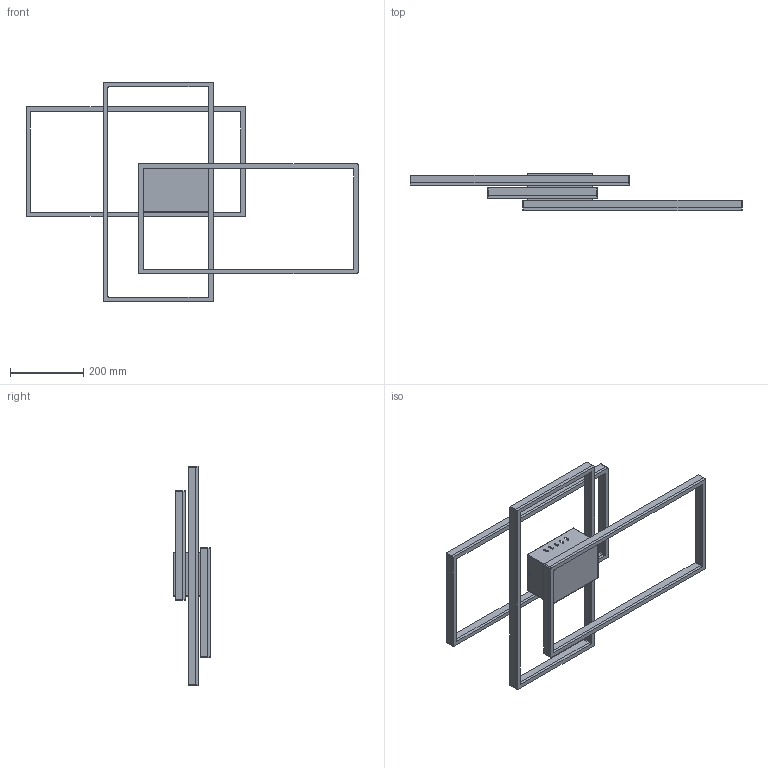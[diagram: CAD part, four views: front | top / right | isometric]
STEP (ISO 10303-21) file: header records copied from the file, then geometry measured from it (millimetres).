
FILE_DESCRIPTION(/* description */ (''),/* implementation_level */ '2;1');
FILE_NAME(/* name */ 'VT-7926.stp',/* time_stamp */ '2026-06-23T20:15:12+08:00',/* author */ (''),/* organization */ (''),/* preprocessor_version */ 'ST-DEVELOPER v16',/* originating_system */ 'SIEMENS PLM Software NX 10.0',/* authorisation */ '');
FILE_SCHEMA (('AP203_CONFIGURATION_CONTROLLED_3D_DESIGN_OF_MECHANICAL_PARTS_AND_ASSEMBLIES_MIM_LF { 1 0 10303 403 2 1 2}'));
Length unit declared in the file: millimetre
Products named in the file (1): 14B044C7C32hq
Bounding box: 908 x 103 x 600 mm (x, y, z)
Volume: 1831320 mm3; surface area: 708908.8 mm2
Topology: 10 solids, 10 shells, 251 faces, 664 edges, 434 vertices
Faces by surface type: plane 131, cylinder 100, bspline 8, cone 8, sphere 4
Full cylindrical faces by diameter (mm): 7 x2, 9.6 x2
Entity records: 15802 total; most frequent: CARTESIAN_POINT 9408, ORIENTED_EDGE 1308, DIRECTION 1294, EDGE_CURVE 654, AXIS2_PLACEMENT_3D 450, VERTEX_POINT 432, LINE 394, VECTOR 394
